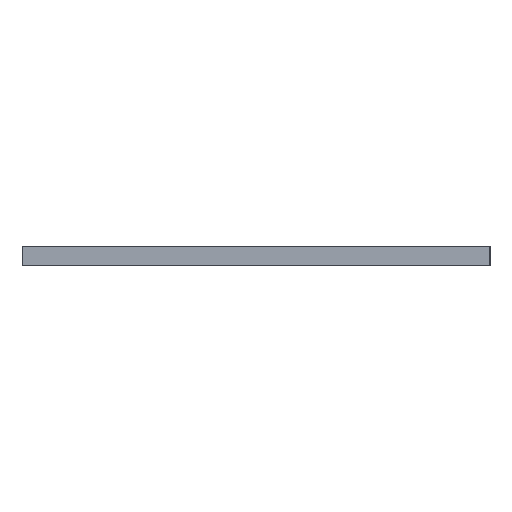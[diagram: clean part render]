
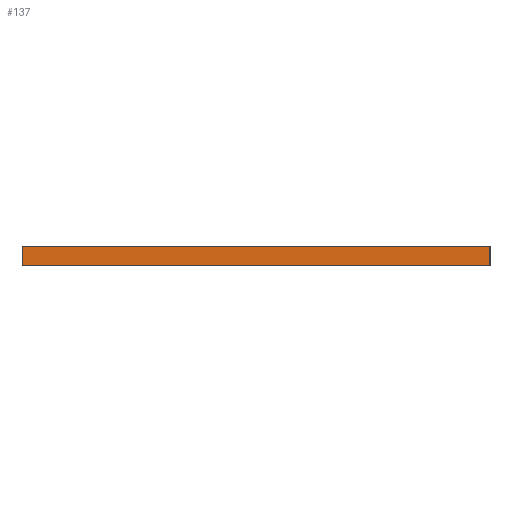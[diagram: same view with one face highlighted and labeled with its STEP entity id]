
A CAD part, left-side view. The second image highlights one B-rep face of the part: STEP entity #137.
In plain terms, the highlighted planar face has unit normal (-1, 0, 0).
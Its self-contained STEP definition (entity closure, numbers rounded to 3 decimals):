
#21 = EDGE_CURVE('',#22,#24,#26,.T.);
#22 = VERTEX_POINT('',#23);
#23 = CARTESIAN_POINT('',(-26.,-57.5,79.));
#24 = VERTEX_POINT('',#25);
#25 = CARTESIAN_POINT('',(-26.,-57.5,80.6));
#26 = SURFACE_CURVE('',#27,(#31,#43),.PCURVE_S1.);
#27 = LINE('',#28,#29);
#28 = CARTESIAN_POINT('',(-26.,-57.5,79.));
#29 = VECTOR('',#30,1.);
#30 = DIRECTION('',(0.,0.,1.));
#31 = PCURVE('',#32,#37);
#32 = PLANE('',#33);
#33 = AXIS2_PLACEMENT_3D('',#34,#35,#36);
#34 = CARTESIAN_POINT('',(-26.,-57.5,79.));
#35 = DIRECTION('',(0.,1.,0.));
#36 = DIRECTION('',(1.,0.,0.));
#37 = DEFINITIONAL_REPRESENTATION('',(#38),#42);
#38 = LINE('',#39,#40);
#39 = CARTESIAN_POINT('',(0.,0.));
#40 = VECTOR('',#41,1.);
#41 = DIRECTION('',(0.,-1.));
#42 = ( GEOMETRIC_REPRESENTATION_CONTEXT(2) 
PARAMETRIC_REPRESENTATION_CONTEXT() REPRESENTATION_CONTEXT('2D SPACE',''
  ) );
#43 = PCURVE('',#44,#49);
#44 = PLANE('',#45);
#45 = AXIS2_PLACEMENT_3D('',#46,#47,#48);
#46 = CARTESIAN_POINT('',(-26.,-19.5,79.));
#47 = DIRECTION('',(1.,0.,-0.));
#48 = DIRECTION('',(0.,-1.,0.));
#49 = DEFINITIONAL_REPRESENTATION('',(#50),#54);
#50 = LINE('',#51,#52);
#51 = CARTESIAN_POINT('',(38.,0.));
#52 = VECTOR('',#53,1.);
#53 = DIRECTION('',(0.,-1.));
#54 = ( GEOMETRIC_REPRESENTATION_CONTEXT(2) 
PARAMETRIC_REPRESENTATION_CONTEXT() REPRESENTATION_CONTEXT('2D SPACE',''
  ) );
#72 = PLANE('',#73);
#73 = AXIS2_PLACEMENT_3D('',#74,#75,#76);
#74 = CARTESIAN_POINT('',(0.,-38.5,80.6));
#75 = DIRECTION('',(0.,0.,1.));
#76 = DIRECTION('',(1.,0.,-0.));
#126 = PLANE('',#127);
#127 = AXIS2_PLACEMENT_3D('',#128,#129,#130);
#128 = CARTESIAN_POINT('',(0.,-38.5,79.));
#129 = DIRECTION('',(0.,0.,1.));
#130 = DIRECTION('',(1.,0.,-0.));
#137 = ADVANCED_FACE('',(#138),#44,.F.);
#138 = FACE_BOUND('',#139,.F.);
#139 = EDGE_LOOP('',(#140,#170,#191,#192));
#140 = ORIENTED_EDGE('',*,*,#141,.T.);
#141 = EDGE_CURVE('',#142,#144,#146,.T.);
#142 = VERTEX_POINT('',#143);
#143 = CARTESIAN_POINT('',(-26.,-19.5,79.));
#144 = VERTEX_POINT('',#145);
#145 = CARTESIAN_POINT('',(-26.,-19.5,80.6));
#146 = SURFACE_CURVE('',#147,(#151,#158),.PCURVE_S1.);
#147 = LINE('',#148,#149);
#148 = CARTESIAN_POINT('',(-26.,-19.5,79.));
#149 = VECTOR('',#150,1.);
#150 = DIRECTION('',(0.,0.,1.));
#151 = PCURVE('',#44,#152);
#152 = DEFINITIONAL_REPRESENTATION('',(#153),#157);
#153 = LINE('',#154,#155);
#154 = CARTESIAN_POINT('',(0.,0.));
#155 = VECTOR('',#156,1.);
#156 = DIRECTION('',(0.,-1.));
#157 = ( GEOMETRIC_REPRESENTATION_CONTEXT(2) 
PARAMETRIC_REPRESENTATION_CONTEXT() REPRESENTATION_CONTEXT('2D SPACE',''
  ) );
#158 = PCURVE('',#159,#164);
#159 = PLANE('',#160);
#160 = AXIS2_PLACEMENT_3D('',#161,#162,#163);
#161 = CARTESIAN_POINT('',(26.,-19.5,79.));
#162 = DIRECTION('',(0.,-1.,0.));
#163 = DIRECTION('',(-1.,0.,0.));
#164 = DEFINITIONAL_REPRESENTATION('',(#165),#169);
#165 = LINE('',#166,#167);
#166 = CARTESIAN_POINT('',(52.,0.));
#167 = VECTOR('',#168,1.);
#168 = DIRECTION('',(0.,-1.));
#169 = ( GEOMETRIC_REPRESENTATION_CONTEXT(2) 
PARAMETRIC_REPRESENTATION_CONTEXT() REPRESENTATION_CONTEXT('2D SPACE',''
  ) );
#170 = ORIENTED_EDGE('',*,*,#171,.T.);
#171 = EDGE_CURVE('',#144,#24,#172,.T.);
#172 = SURFACE_CURVE('',#173,(#177,#184),.PCURVE_S1.);
#173 = LINE('',#174,#175);
#174 = CARTESIAN_POINT('',(-26.,-19.5,80.6));
#175 = VECTOR('',#176,1.);
#176 = DIRECTION('',(0.,-1.,0.));
#177 = PCURVE('',#44,#178);
#178 = DEFINITIONAL_REPRESENTATION('',(#179),#183);
#179 = LINE('',#180,#181);
#180 = CARTESIAN_POINT('',(0.,-1.6));
#181 = VECTOR('',#182,1.);
#182 = DIRECTION('',(1.,0.));
#183 = ( GEOMETRIC_REPRESENTATION_CONTEXT(2) 
PARAMETRIC_REPRESENTATION_CONTEXT() REPRESENTATION_CONTEXT('2D SPACE',''
  ) );
#184 = PCURVE('',#72,#185);
#185 = DEFINITIONAL_REPRESENTATION('',(#186),#190);
#186 = LINE('',#187,#188);
#187 = CARTESIAN_POINT('',(-26.,19.));
#188 = VECTOR('',#189,1.);
#189 = DIRECTION('',(0.,-1.));
#190 = ( GEOMETRIC_REPRESENTATION_CONTEXT(2) 
PARAMETRIC_REPRESENTATION_CONTEXT() REPRESENTATION_CONTEXT('2D SPACE',''
  ) );
#191 = ORIENTED_EDGE('',*,*,#21,.F.);
#192 = ORIENTED_EDGE('',*,*,#193,.F.);
#193 = EDGE_CURVE('',#142,#22,#194,.T.);
#194 = SURFACE_CURVE('',#195,(#199,#206),.PCURVE_S1.);
#195 = LINE('',#196,#197);
#196 = CARTESIAN_POINT('',(-26.,-19.5,79.));
#197 = VECTOR('',#198,1.);
#198 = DIRECTION('',(0.,-1.,0.));
#199 = PCURVE('',#44,#200);
#200 = DEFINITIONAL_REPRESENTATION('',(#201),#205);
#201 = LINE('',#202,#203);
#202 = CARTESIAN_POINT('',(0.,0.));
#203 = VECTOR('',#204,1.);
#204 = DIRECTION('',(1.,0.));
#205 = ( GEOMETRIC_REPRESENTATION_CONTEXT(2) 
PARAMETRIC_REPRESENTATION_CONTEXT() REPRESENTATION_CONTEXT('2D SPACE',''
  ) );
#206 = PCURVE('',#126,#207);
#207 = DEFINITIONAL_REPRESENTATION('',(#208),#212);
#208 = LINE('',#209,#210);
#209 = CARTESIAN_POINT('',(-26.,19.));
#210 = VECTOR('',#211,1.);
#211 = DIRECTION('',(0.,-1.));
#212 = ( GEOMETRIC_REPRESENTATION_CONTEXT(2) 
PARAMETRIC_REPRESENTATION_CONTEXT() REPRESENTATION_CONTEXT('2D SPACE',''
  ) );
